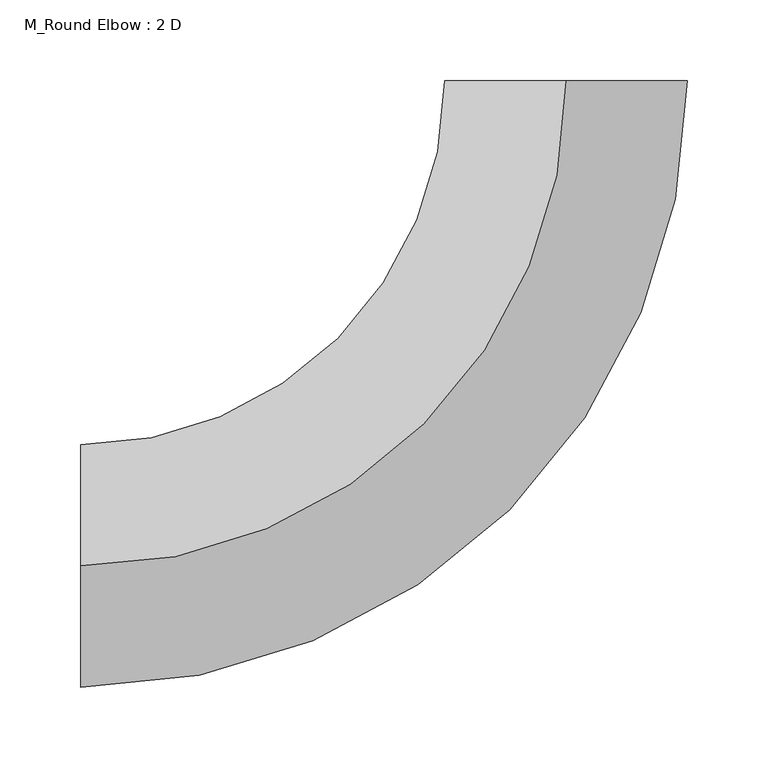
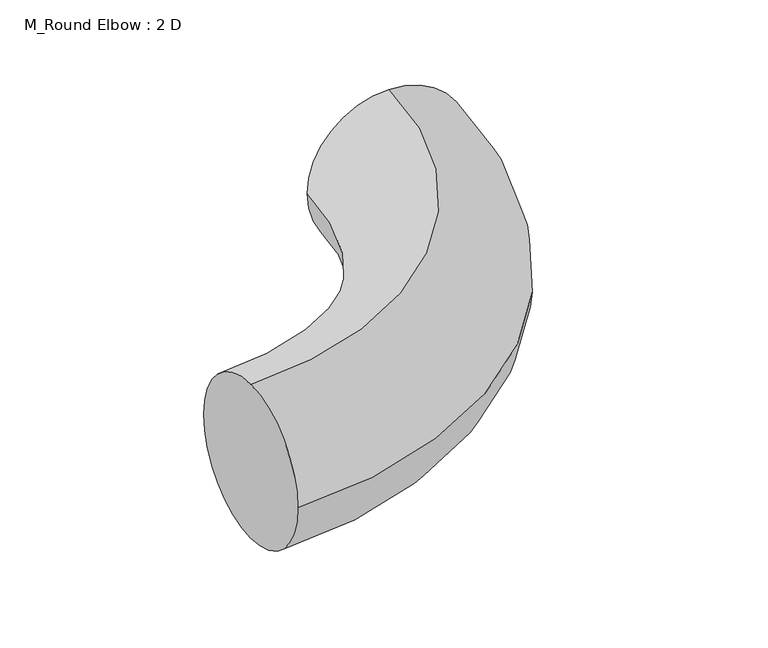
"""IFC4 building model written with IfcOpenShell, lengths in millimetres: duct fitting geometry, M_Round Elbow : 2 D."""

from ifc_helpers import new_model, si_unit, point, frame, origin, place, context, project, spatial, circle_curve, ellipse_curve, trimmed, source, transform, mapped, element, save
from ifc_brep_helpers import plane_surface, revolved_surface, advanced_brep


def m_round_elbow_2_d_c40af4c7(model_context):
    return source(origin(), model_context, "Body", "AdvancedBrep", [
        advanced_brep(
        [(-300.0, 0.0, 75.0), (-300.0, 75.0, 0.0), (-300.0, 0.0, -75.0), (-300.0, -75.0, 0.0), (0.0, 300.0, 75.0), (75.0, 300.0, 0.0), (0.0, 300.0, -75.0), (-75.0, 300.0, 0.0)],
        [
            (0, 1, circle_curve(frame((-300.0, 0.0, 0.0), z_axis=(-1.0, 0.0, 0.0), x_axis=(0.0, 1.0, 0.0)), 75.0)),
            (1, 2, circle_curve(frame((-300.0, 0.0, 0.0), z_axis=(-1.0, 0.0, 0.0), x_axis=(0.0, 1.0, 0.0)), 75.0)),
            (2, 3, circle_curve(frame((-300.0, 0.0, 0.0), z_axis=(-1.0, 0.0, 0.0), x_axis=(0.0, 1.0, 0.0)), 75.0)),
            (3, 0, circle_curve(frame((-300.0, 0.0, 0.0), z_axis=(-1.0, 0.0, 0.0), x_axis=(0.0, 1.0, 0.0)), 75.0)),
            (4, 5, circle_curve(frame((0.0, 300.0, 0.0), z_axis=(0.0, 1.0, 0.0), x_axis=(-1.0, 0.0, 0.0)), 75.0)),
            (5, 6, circle_curve(frame((0.0, 300.0, 0.0), z_axis=(0.0, 1.0, 0.0), x_axis=(-1.0, 0.0, 0.0)), 75.0)),
            (6, 7, circle_curve(frame((0.0, 300.0, 0.0), z_axis=(0.0, 1.0, 0.0), x_axis=(-1.0, 0.0, 0.0)), 75.0)),
            (7, 4, circle_curve(frame((0.0, 300.0, 0.0), z_axis=(0.0, 1.0, 0.0), x_axis=(-1.0, 0.0, 0.0)), 75.0)),
            (7, 1, circle_curve(frame((-300.0, 300.0, 0.0), z_axis=(0.0, 0.0, -1.0), x_axis=(0.0, -1.0, 0.0)), 225.0)),
            (0, 4, circle_curve(frame((-300.0, 300.0, 75.0), z_axis=(0.0, 0.0, 1.0), x_axis=(0.0, -1.0, 0.0)), 300.0)),
            (6, 2, circle_curve(frame((-300.0, 300.0, -75.0), z_axis=(0.0, 0.0, -1.0), x_axis=(0.0, -1.0, 0.0)), 300.0)),
            (5, 3, circle_curve(frame((-300.0, 300.0, 0.0), z_axis=(0.0, 0.0, -1.0), x_axis=(0.0, -1.0, 0.0)), 375.0)),
        ],
        [
            plane_surface(frame((-300.0, 0.0, 0.0), z_axis=(-1.0, 0.0, 0.0), x_axis=(0.0, 0.0, 1.0))),
            plane_surface(frame((0.0, 300.0, 0.0), z_axis=(0.0, 1.0, 0.0), x_axis=(0.0, 0.0, 1.0))),
            revolved_surface(trimmed(ellipse_curve(frame((-300.0, 0.0, 0.0), z_axis=(-1.0, 0.0, 0.0), x_axis=(0.0, 1.0, 0.0)), 75.0, 75.0), [point((-300.0, 0.0, 75.0))], [point((-300.0, 75.0, 0.0))], True, "CARTESIAN"), (-300.0, 300.0, 0.0), (0.0, 0.0, 1.0)),
            revolved_surface(trimmed(ellipse_curve(frame((-300.0, 0.0, 0.0), z_axis=(-1.0, 0.0, 0.0), x_axis=(0.0, 1.0, 0.0)), 75.0, 75.0), [point((-300.0, 75.0, 0.0))], [point((-300.0, 0.0, -75.0))], True, "CARTESIAN"), (-300.0, 300.0, 0.0), (0.0, 0.0, 1.0)),
            revolved_surface(trimmed(ellipse_curve(frame((-300.0, 0.0, 0.0), z_axis=(-1.0, 0.0, 0.0), x_axis=(0.0, 1.0, 0.0)), 75.0, 75.0), [point((-300.0, 0.0, -75.0))], [point((-300.0, -75.0, 0.0))], True, "CARTESIAN"), (-300.0, 300.0, 0.0), (0.0, 0.0, 1.0)),
            revolved_surface(trimmed(ellipse_curve(frame((-300.0, 0.0, 0.0), z_axis=(-1.0, 0.0, 0.0), x_axis=(0.0, 1.0, 0.0)), 75.0, 75.0), [point((-300.0, -75.0, 0.0))], [point((-300.0, 0.0, 75.0))], True, "CARTESIAN"), (-300.0, 300.0, 0.0), (0.0, 0.0, 1.0)),
        ],
        [
            (0, [[1, 2, 3, 4]]),
            (1, [[5, 6, 7, 8]]),
            (2, [[9, -1, 10, -8]]),
            (3, [[11, -2, -9, -7]]),
            (4, [[12, -3, -11, -6]]),
            (5, [[-10, -4, -12, -5]]),
        ],
    ),
        advanced_brep(
        [(-300.0, 0.0, 75.0), (-300.0, 75.0, 0.0), (-300.0, 0.0, -75.0), (-300.0, -75.0, 0.0), (0.0, 300.0, 75.0), (75.0, 300.0, 0.0), (0.0, 300.0, -75.0), (-75.0, 300.0, 0.0)],
        [
            (0, 1, circle_curve(frame((-300.0, 0.0, 0.0), z_axis=(-1.0, 0.0, 0.0), x_axis=(0.0, 1.0, 0.0)), 75.0)),
            (1, 2, circle_curve(frame((-300.0, 0.0, 0.0), z_axis=(-1.0, 0.0, 0.0), x_axis=(0.0, 1.0, 0.0)), 75.0)),
            (2, 3, circle_curve(frame((-300.0, 0.0, 0.0), z_axis=(-1.0, 0.0, 0.0), x_axis=(0.0, 1.0, 0.0)), 75.0)),
            (3, 0, circle_curve(frame((-300.0, 0.0, 0.0), z_axis=(-1.0, 0.0, 0.0), x_axis=(0.0, 1.0, 0.0)), 75.0)),
            (4, 5, circle_curve(frame((0.0, 300.0, 0.0), z_axis=(0.0, 1.0, 0.0), x_axis=(-1.0, 0.0, 0.0)), 75.0)),
            (5, 6, circle_curve(frame((0.0, 300.0, 0.0), z_axis=(0.0, 1.0, 0.0), x_axis=(-1.0, 0.0, 0.0)), 75.0)),
            (6, 7, circle_curve(frame((0.0, 300.0, 0.0), z_axis=(0.0, 1.0, 0.0), x_axis=(-1.0, 0.0, 0.0)), 75.0)),
            (7, 4, circle_curve(frame((0.0, 300.0, 0.0), z_axis=(0.0, 1.0, 0.0), x_axis=(-1.0, 0.0, 0.0)), 75.0)),
            (7, 1, circle_curve(frame((-300.0, 300.0, 0.0), z_axis=(0.0, 0.0, -1.0), x_axis=(0.0, -1.0, 0.0)), 225.0)),
            (0, 4, circle_curve(frame((-300.0, 300.0, 75.0), z_axis=(0.0, 0.0, 1.0), x_axis=(0.0, -1.0, 0.0)), 300.0)),
            (6, 2, circle_curve(frame((-300.0, 300.0, -75.0), z_axis=(0.0, 0.0, -1.0), x_axis=(0.0, -1.0, 0.0)), 300.0)),
            (5, 3, circle_curve(frame((-300.0, 300.0, 0.0), z_axis=(0.0, 0.0, -1.0), x_axis=(0.0, -1.0, 0.0)), 375.0)),
        ],
        [
            plane_surface(frame((-300.0, 0.0, 0.0), z_axis=(-1.0, 0.0, 0.0), x_axis=(0.0, 0.0, 1.0))),
            plane_surface(frame((0.0, 300.0, 0.0), z_axis=(0.0, 1.0, 0.0), x_axis=(0.0, 0.0, 1.0))),
            revolved_surface(trimmed(ellipse_curve(frame((-300.0, 0.0, 0.0), z_axis=(-1.0, 0.0, 0.0), x_axis=(0.0, 1.0, 0.0)), 75.0, 75.0), [point((-300.0, 0.0, 75.0))], [point((-300.0, 75.0, 0.0))], True, "CARTESIAN"), (-300.0, 300.0, 0.0), (0.0, 0.0, 1.0)),
            revolved_surface(trimmed(ellipse_curve(frame((-300.0, 0.0, 0.0), z_axis=(-1.0, 0.0, 0.0), x_axis=(0.0, 1.0, 0.0)), 75.0, 75.0), [point((-300.0, 75.0, 0.0))], [point((-300.0, 0.0, -75.0))], True, "CARTESIAN"), (-300.0, 300.0, 0.0), (0.0, 0.0, 1.0)),
            revolved_surface(trimmed(ellipse_curve(frame((-300.0, 0.0, 0.0), z_axis=(-1.0, 0.0, 0.0), x_axis=(0.0, 1.0, 0.0)), 75.0, 75.0), [point((-300.0, 0.0, -75.0))], [point((-300.0, -75.0, 0.0))], True, "CARTESIAN"), (-300.0, 300.0, 0.0), (0.0, 0.0, 1.0)),
            revolved_surface(trimmed(ellipse_curve(frame((-300.0, 0.0, 0.0), z_axis=(-1.0, 0.0, 0.0), x_axis=(0.0, 1.0, 0.0)), 75.0, 75.0), [point((-300.0, -75.0, 0.0))], [point((-300.0, 0.0, 75.0))], True, "CARTESIAN"), (-300.0, 300.0, 0.0), (0.0, 0.0, 1.0)),
        ],
        [
            (0, [[1, 2, 3, 4]]),
            (1, [[5, 6, 7, 8]]),
            (2, [[9, -1, 10, -8]]),
            (3, [[11, -2, -9, -7]]),
            (4, [[12, -3, -11, -6]]),
            (5, [[-10, -4, -12, -5]]),
        ],
    ),
        advanced_brep(
        [(-300.0, 0.0, 75.0), (-300.0, 75.0, 0.0), (-300.0, 0.0, -75.0), (-300.0, -75.0, 0.0), (0.0, 300.0, 75.0), (75.0, 300.0, 0.0), (0.0, 300.0, -75.0), (-75.0, 300.0, 0.0)],
        [
            (0, 1, circle_curve(frame((-300.0, 0.0, 0.0), z_axis=(-1.0, 0.0, 0.0), x_axis=(0.0, 1.0, 0.0)), 75.0)),
            (1, 2, circle_curve(frame((-300.0, 0.0, 0.0), z_axis=(-1.0, 0.0, 0.0), x_axis=(0.0, 1.0, 0.0)), 75.0)),
            (2, 3, circle_curve(frame((-300.0, 0.0, 0.0), z_axis=(-1.0, 0.0, 0.0), x_axis=(0.0, 1.0, 0.0)), 75.0)),
            (3, 0, circle_curve(frame((-300.0, 0.0, 0.0), z_axis=(-1.0, 0.0, 0.0), x_axis=(0.0, 1.0, 0.0)), 75.0)),
            (4, 5, circle_curve(frame((0.0, 300.0, 0.0), z_axis=(0.0, 1.0, 0.0), x_axis=(-1.0, 0.0, 0.0)), 75.0)),
            (5, 6, circle_curve(frame((0.0, 300.0, 0.0), z_axis=(0.0, 1.0, 0.0), x_axis=(-1.0, 0.0, 0.0)), 75.0)),
            (6, 7, circle_curve(frame((0.0, 300.0, 0.0), z_axis=(0.0, 1.0, 0.0), x_axis=(-1.0, 0.0, 0.0)), 75.0)),
            (7, 4, circle_curve(frame((0.0, 300.0, 0.0), z_axis=(0.0, 1.0, 0.0), x_axis=(-1.0, 0.0, 0.0)), 75.0)),
            (7, 1, circle_curve(frame((-300.0, 300.0, 0.0), z_axis=(0.0, 0.0, -1.0), x_axis=(0.0, -1.0, 0.0)), 225.0)),
            (0, 4, circle_curve(frame((-300.0, 300.0, 75.0), z_axis=(0.0, 0.0, 1.0), x_axis=(0.0, -1.0, 0.0)), 300.0)),
            (6, 2, circle_curve(frame((-300.0, 300.0, -75.0), z_axis=(0.0, 0.0, -1.0), x_axis=(0.0, -1.0, 0.0)), 300.0)),
            (5, 3, circle_curve(frame((-300.0, 300.0, 0.0), z_axis=(0.0, 0.0, -1.0), x_axis=(0.0, -1.0, 0.0)), 375.0)),
        ],
        [
            plane_surface(frame((-300.0, 0.0, 0.0), z_axis=(-1.0, 0.0, 0.0), x_axis=(0.0, 0.0, 1.0))),
            plane_surface(frame((0.0, 300.0, 0.0), z_axis=(0.0, 1.0, 0.0), x_axis=(0.0, 0.0, 1.0))),
            revolved_surface(trimmed(ellipse_curve(frame((-300.0, 0.0, 0.0), z_axis=(-1.0, 0.0, 0.0), x_axis=(0.0, 1.0, 0.0)), 75.0, 75.0), [point((-300.0, 0.0, 75.0))], [point((-300.0, 75.0, 0.0))], True, "CARTESIAN"), (-300.0, 300.0, 0.0), (0.0, 0.0, 1.0)),
            revolved_surface(trimmed(ellipse_curve(frame((-300.0, 0.0, 0.0), z_axis=(-1.0, 0.0, 0.0), x_axis=(0.0, 1.0, 0.0)), 75.0, 75.0), [point((-300.0, 75.0, 0.0))], [point((-300.0, 0.0, -75.0))], True, "CARTESIAN"), (-300.0, 300.0, 0.0), (0.0, 0.0, 1.0)),
            revolved_surface(trimmed(ellipse_curve(frame((-300.0, 0.0, 0.0), z_axis=(-1.0, 0.0, 0.0), x_axis=(0.0, 1.0, 0.0)), 75.0, 75.0), [point((-300.0, 0.0, -75.0))], [point((-300.0, -75.0, 0.0))], True, "CARTESIAN"), (-300.0, 300.0, 0.0), (0.0, 0.0, 1.0)),
            revolved_surface(trimmed(ellipse_curve(frame((-300.0, 0.0, 0.0), z_axis=(-1.0, 0.0, 0.0), x_axis=(0.0, 1.0, 0.0)), 75.0, 75.0), [point((-300.0, -75.0, 0.0))], [point((-300.0, 0.0, 75.0))], True, "CARTESIAN"), (-300.0, 300.0, 0.0), (0.0, 0.0, 1.0)),
        ],
        [
            (0, [[1, 2, 3, 4]]),
            (1, [[5, 6, 7, 8]]),
            (2, [[9, -1, 10, -8]]),
            (3, [[11, -2, -9, -7]]),
            (4, [[12, -3, -11, -6]]),
            (5, [[-10, -4, -12, -5]]),
        ],
    ),
    ])


if __name__ == "__main__":
    model = new_model("IFC4")
    model_context = context("Model", 3, world=origin())
    ifc_project = project(units=[si_unit("LENGTHUNIT", "METRE", prefix="MILLI")], contexts=[model_context])
    site = spatial("IfcSite", under=ifc_project)
    building = spatial("IfcBuilding", under=site)
    placement = place(None, origin())
    m_round_elbow_2_d_shape = m_round_elbow_2_d_c40af4c7(model_context)
    element("IfcDuctFitting", 1, ObjectType="M_Round Elbow : 2 D", at=placement, inside=building, context=model_context, shape_type="MappedRepresentation", body=[
        mapped(m_round_elbow_2_d_shape, transform((0.0, 0.0, 0.0), x_axis=(1.0, 0.0, 0.0), y_axis=(0.0, 1.0, 0.0), z_axis=(0.0, 0.0, 1.0))),
    ])
    save(model, "model.ifc")
